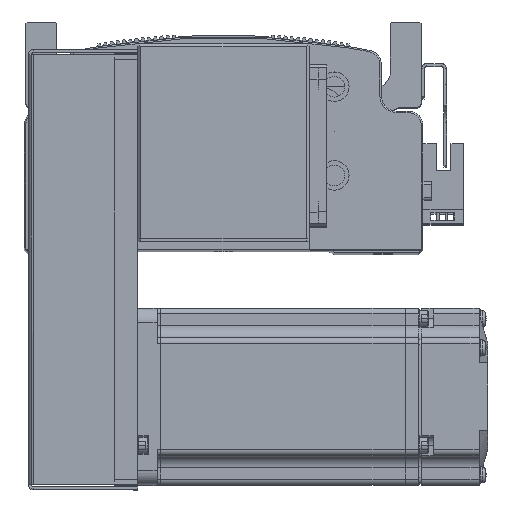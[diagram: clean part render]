
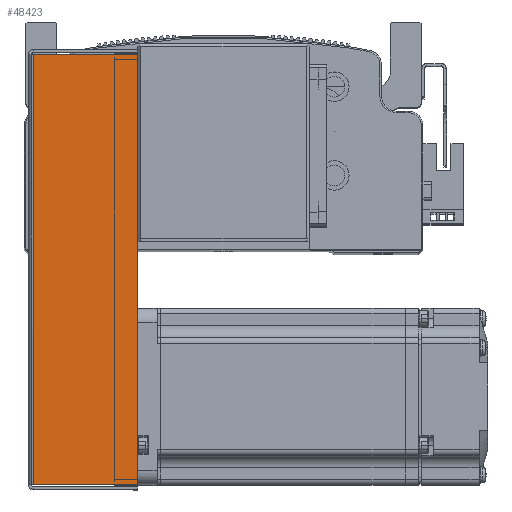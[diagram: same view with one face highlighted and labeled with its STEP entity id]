
A CAD part, top view. The second image highlights one B-rep face of the part: STEP entity #48423.
In plain terms, the highlighted planar face has unit normal (0, 0, 1) as drawn and (0, 0, -1) by its records, which use the part's own axes.
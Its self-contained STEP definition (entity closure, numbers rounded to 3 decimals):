
#391 = EDGE_LOOP ( 'NONE', ( #32574, #32666, #32520, #32604 ) ) ;
#4384 = CARTESIAN_POINT ( 'NONE',  ( 72.793, 0., -34.5 ) ) ;
#4401 = DIRECTION ( 'NONE',  ( 0., 1., 0. ) ) ;
#4445 = CARTESIAN_POINT ( 'NONE',  ( 74.5, 0.737, -34.5 ) ) ;
#4450 = DIRECTION ( 'NONE',  ( 1., 0., 0. ) ) ;
#8594 = AXIS2_PLACEMENT_3D ( 'NONE', #9496, #9526, #9498 ) ;
#9496 = CARTESIAN_POINT ( 'NONE',  ( 0., 0., -34.5 ) ) ;
#9498 = DIRECTION ( 'NONE',  ( 0., -1., 0. ) ) ;
#9525 = PLANE ( 'NONE',  #8594 ) ;
#9526 = DIRECTION ( 'NONE',  ( 0., 0., 1. ) ) ;
#10551 = CARTESIAN_POINT ( 'NONE',  ( 0., 36., -34.5 ) ) ;
#10556 = DIRECTION ( 'NONE',  ( 1., 0., 0. ) ) ;
#10597 = CARTESIAN_POINT ( 'NONE',  ( -72.793, 0., -34.5 ) ) ;
#10600 = DIRECTION ( 'NONE',  ( 0., 1., 0. ) ) ;
#12363 = CARTESIAN_POINT ( 'NONE',  ( -72.793, 0.737, -34.5 ) ) ;
#12377 = CARTESIAN_POINT ( 'NONE',  ( 72.793, 0.737, -34.5 ) ) ;
#12405 = CARTESIAN_POINT ( 'NONE',  ( 72.793, 36., -34.5 ) ) ;
#12418 = CARTESIAN_POINT ( 'NONE',  ( -72.793, 36., -34.5 ) ) ;
#16358 = VERTEX_POINT ( 'NONE', #12377 ) ;
#16378 = VERTEX_POINT ( 'NONE', #12405 ) ;
#16435 = VERTEX_POINT ( 'NONE', #12363 ) ;
#16466 = VERTEX_POINT ( 'NONE', #12418 ) ;
#29626 = FACE_OUTER_BOUND ( 'NONE', #391, .T. ) ;
#32520 = ORIENTED_EDGE ( 'NONE', *, *, #34001, .T. ) ;
#32574 = ORIENTED_EDGE ( 'NONE', *, *, #33951, .F. ) ;
#32604 = ORIENTED_EDGE ( 'NONE', *, *, #33943, .F. ) ;
#32666 = ORIENTED_EDGE ( 'NONE', *, *, #34014, .T. ) ;
#33943 = EDGE_CURVE ( 'NONE', #16358, #16378, #38753, .T. ) ;
#33951 = EDGE_CURVE ( 'NONE', #16435, #16358, #38809, .T. ) ;
#34001 = EDGE_CURVE ( 'NONE', #16466, #16378, #38910, .T. ) ;
#34014 = EDGE_CURVE ( 'NONE', #16435, #16466, #39058, .T. ) ;
#38735 = VECTOR ( 'NONE', #4401, 1000. ) ;
#38753 = LINE ( 'NONE', #4384, #38735 ) ;
#38809 = LINE ( 'NONE', #4445, #38815 ) ;
#38815 = VECTOR ( 'NONE', #4450, 1000. ) ;
#38910 = LINE ( 'NONE', #10551, #38914 ) ;
#38914 = VECTOR ( 'NONE', #10556, 1000. ) ;
#39010 = VECTOR ( 'NONE', #10600, 1000. ) ;
#39058 = LINE ( 'NONE', #10597, #39010 ) ;
#48423 = ADVANCED_FACE ( 'NONE', ( #29626 ), #9525, .F. ) ;
